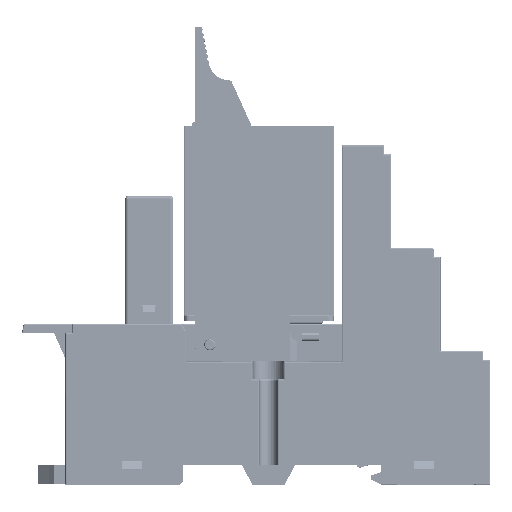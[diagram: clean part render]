
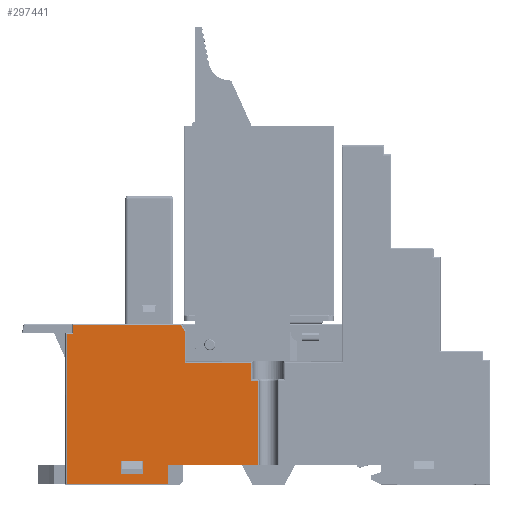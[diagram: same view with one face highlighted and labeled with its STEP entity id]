
A CAD part, top view. The second image highlights one B-rep face of the part: STEP entity #297441.
In plain terms, the highlighted planar face has unit normal (0, 0, 1).
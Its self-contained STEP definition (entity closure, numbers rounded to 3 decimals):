
#503 = ORIENTED_EDGE ( 'NONE', *, *, #218009, .T. ) ;
#2770 = CARTESIAN_POINT ( 'NONE',  ( -46.098, -32.082, 13.45 ) ) ;
#11825 = EDGE_CURVE ( 'NONE', #16322, #195343, #289352, .T. ) ;
#15429 = VERTEX_POINT ( 'NONE', #306461 ) ;
#15926 = ORIENTED_EDGE ( 'NONE', *, *, #267294, .T. ) ;
#16322 = VERTEX_POINT ( 'NONE', #43473 ) ;
#19897 = FACE_OUTER_BOUND ( 'NONE', #294657, .T. ) ;
#19965 = LINE ( 'NONE', #184635, #239825 ) ;
#22004 = LINE ( 'NONE', #47100, #263258 ) ;
#22346 = LINE ( 'NONE', #280833, #95414 ) ;
#23916 = LINE ( 'NONE', #45910, #175315 ) ;
#28873 = DIRECTION ( 'NONE',  ( 0., -1., 0. ) ) ;
#31441 = VECTOR ( 'NONE', #49808, 1000. ) ;
#33224 = DIRECTION ( 'NONE',  ( 0., 1., 0. ) ) ;
#34187 = ORIENTED_EDGE ( 'NONE', *, *, #227342, .T. ) ;
#38883 = CARTESIAN_POINT ( 'NONE',  ( -46.098, -5.232, 13.45 ) ) ;
#40073 = CARTESIAN_POINT ( 'NONE',  ( -34.648, -12.032, 13.45 ) ) ;
#41150 = VERTEX_POINT ( 'NONE', #268453 ) ;
#41887 = EDGE_LOOP ( 'NONE', ( #43079, #224647, #306940, #178816 ) ) ;
#42601 = CARTESIAN_POINT ( 'NONE',  ( -37.698, -30.382, 13.45 ) ) ;
#43079 = ORIENTED_EDGE ( 'NONE', *, *, #102662, .T. ) ;
#43473 = CARTESIAN_POINT ( 'NONE',  ( -21.498, -30.382, 13.45 ) ) ;
#45390 = CARTESIAN_POINT ( 'NONE',  ( -54.648, -5.232, 13.45 ) ) ;
#45871 = CARTESIAN_POINT ( 'NONE',  ( -54.648, -30.382, 13.45 ) ) ;
#45910 = CARTESIAN_POINT ( 'NONE',  ( -54.648, -5.232, 13.45 ) ) ;
#46981 = VECTOR ( 'NONE', #119981, 1000. ) ;
#47100 = CARTESIAN_POINT ( 'NONE',  ( -54.648, -15.232, 13.45 ) ) ;
#49808 = DIRECTION ( 'NONE',  ( 0., 1., 0. ) ) ;
#50750 = EDGE_CURVE ( 'NONE', #246055, #247535, #153992, .T. ) ;
#55075 = VECTOR ( 'NONE', #28873, 1000. ) ;
#56101 = VECTOR ( 'NONE', #57316, 1000. ) ;
#57316 = DIRECTION ( 'NONE',  ( -1., 0., 0. ) ) ;
#57729 = EDGE_CURVE ( 'NONE', #132200, #114649, #98609, .T. ) ;
#60148 = VERTEX_POINT ( 'NONE', #107700 ) ;
#61614 = ORIENTED_EDGE ( 'NONE', *, *, #57729, .T. ) ;
#65668 = VERTEX_POINT ( 'NONE', #174192 ) ;
#66437 = DIRECTION ( 'NONE',  ( 1., 0., 0. ) ) ;
#76493 = CARTESIAN_POINT ( 'NONE',  ( -54.648, -32.082, 13.45 ) ) ;
#89343 = EDGE_CURVE ( 'NONE', #195343, #246055, #22004, .T. ) ;
#95414 = VECTOR ( 'NONE', #66437, 1000. ) ;
#98609 = LINE ( 'NONE', #289497, #213586 ) ;
#102662 = EDGE_CURVE ( 'NONE', #144854, #60148, #233143, .T. ) ;
#103215 = DIRECTION ( 'NONE',  ( 0., 1., 0. ) ) ;
#105941 = LINE ( 'NONE', #201354, #56101 ) ;
#107700 = CARTESIAN_POINT ( 'NONE',  ( -46.098, -29.682, 13.45 ) ) ;
#110737 = CARTESIAN_POINT ( 'NONE',  ( -54.648, -6.832, 13.45 ) ) ;
#114649 = VERTEX_POINT ( 'NONE', #292484 ) ;
#118599 = DIRECTION ( 'NONE',  ( 1., 0., 0. ) ) ;
#118676 = CARTESIAN_POINT ( 'NONE',  ( -37.698, -33.882, 13.45 ) ) ;
#119981 = DIRECTION ( 'NONE',  ( -1., 0., 0. ) ) ;
#121849 = CARTESIAN_POINT ( 'NONE',  ( -54.648, -5.232, 13.45 ) ) ;
#132200 = VERTEX_POINT ( 'NONE', #40073 ) ;
#134553 = CARTESIAN_POINT ( 'NONE',  ( -22.648, -15.232, 13.45 ) ) ;
#141138 = EDGE_CURVE ( 'NONE', #65668, #41150, #223059, .T. ) ;
#141400 = EDGE_CURVE ( 'NONE', #60148, #65668, #22346, .T. ) ;
#143579 = LINE ( 'NONE', #285949, #163215 ) ;
#144854 = VERTEX_POINT ( 'NONE', #2770 ) ;
#145456 = ORIENTED_EDGE ( 'NONE', *, *, #192551, .T. ) ;
#150440 = ORIENTED_EDGE ( 'NONE', *, *, #298744, .T. ) ;
#150623 = VECTOR ( 'NONE', #163551, 1000. ) ;
#152396 = VECTOR ( 'NONE', #256598, 1000. ) ;
#153992 = LINE ( 'NONE', #269817, #191178 ) ;
#157549 = ORIENTED_EDGE ( 'NONE', *, *, #50750, .T. ) ;
#160782 = LINE ( 'NONE', #210654, #46981 ) ;
#163215 = VECTOR ( 'NONE', #118599, 1000. ) ;
#163551 = DIRECTION ( 'NONE',  ( 1., 0., 0. ) ) ;
#166261 = DIRECTION ( 'NONE',  ( -1., 0., 0. ) ) ;
#168774 = VERTEX_POINT ( 'NONE', #214595 ) ;
#168921 = CARTESIAN_POINT ( 'NONE',  ( -21.498, -5.232, 13.45 ) ) ;
#170225 = VERTEX_POINT ( 'NONE', #263045 ) ;
#174192 = CARTESIAN_POINT ( 'NONE',  ( -42.098, -29.682, 13.45 ) ) ;
#174721 = ORIENTED_EDGE ( 'NONE', *, *, #213178, .T. ) ;
#175081 = DIRECTION ( 'NONE',  ( -1., 0., 0. ) ) ;
#175315 = VECTOR ( 'NONE', #216555, 1000. ) ;
#178816 = ORIENTED_EDGE ( 'NONE', *, *, #254259, .T. ) ;
#181987 = ORIENTED_EDGE ( 'NONE', *, *, #89343, .T. ) ;
#183018 = ORIENTED_EDGE ( 'NONE', *, *, #249556, .T. ) ;
#184023 = LINE ( 'NONE', #187103, #198423 ) ;
#184635 = CARTESIAN_POINT ( 'NONE',  ( -55.848, -5.232, 13.45 ) ) ;
#187103 = CARTESIAN_POINT ( 'NONE',  ( -34.648, -6.396, 13.45 ) ) ;
#191178 = VECTOR ( 'NONE', #33224, 1000. ) ;
#192551 = EDGE_CURVE ( 'NONE', #170225, #241059, #23916, .T. ) ;
#192635 = LINE ( 'NONE', #45390, #292533 ) ;
#195343 = VERTEX_POINT ( 'NONE', #306082 ) ;
#198423 = VECTOR ( 'NONE', #279476, 1000. ) ;
#201354 = CARTESIAN_POINT ( 'NONE',  ( -54.648, -12.032, 13.45 ) ) ;
#209542 = LINE ( 'NONE', #281598, #152396 ) ;
#210325 = LINE ( 'NONE', #45871, #150623 ) ;
#210437 = ORIENTED_EDGE ( 'NONE', *, *, #11825, .T. ) ;
#210654 = CARTESIAN_POINT ( 'NONE',  ( -54.648, -6.832, 13.45 ) ) ;
#212588 = DIRECTION ( 'NONE',  ( 1., 0., 0. ) ) ;
#213178 = EDGE_CURVE ( 'NONE', #114649, #170225, #184023, .T. ) ;
#213586 = VECTOR ( 'NONE', #103215, 1000. ) ;
#214121 = FACE_BOUND ( 'NONE', #41887, .T. ) ;
#214595 = CARTESIAN_POINT ( 'NONE',  ( -55.848, -6.832, 13.45 ) ) ;
#216555 = DIRECTION ( 'NONE',  ( -1., 0., 0. ) ) ;
#218009 = EDGE_CURVE ( 'NONE', #300060, #168774, #160782, .T. ) ;
#218241 = EDGE_CURVE ( 'NONE', #268367, #309879, #209542, .T. ) ;
#223059 = LINE ( 'NONE', #270044, #55075 ) ;
#224647 = ORIENTED_EDGE ( 'NONE', *, *, #141400, .T. ) ;
#227342 = EDGE_CURVE ( 'NONE', #241059, #300060, #192635, .T. ) ;
#229336 = LINE ( 'NONE', #76493, #254856 ) ;
#233143 = LINE ( 'NONE', #38883, #263160 ) ;
#239240 = DIRECTION ( 'NONE',  ( 0., 0., 1. ) ) ;
#239825 = VECTOR ( 'NONE', #308166, 1000. ) ;
#241059 = VERTEX_POINT ( 'NONE', #296870 ) ;
#246055 = VERTEX_POINT ( 'NONE', #134553 ) ;
#247535 = VERTEX_POINT ( 'NONE', #285225 ) ;
#249556 = EDGE_CURVE ( 'NONE', #168774, #15429, #19965, .T. ) ;
#250237 = ORIENTED_EDGE ( 'NONE', *, *, #218241, .T. ) ;
#253582 = DIRECTION ( 'NONE',  ( 0., 1., 0. ) ) ;
#254259 = EDGE_CURVE ( 'NONE', #41150, #144854, #229336, .T. ) ;
#254856 = VECTOR ( 'NONE', #175081, 1000. ) ;
#256598 = DIRECTION ( 'NONE',  ( 0., 1., 0. ) ) ;
#262669 = PLANE ( 'NONE',  #274368 ) ;
#263045 = CARTESIAN_POINT ( 'NONE',  ( -35.25, -5.232, 13.45 ) ) ;
#263160 = VECTOR ( 'NONE', #253582, 1000. ) ;
#263258 = VECTOR ( 'NONE', #166261, 1000. ) ;
#267294 = EDGE_CURVE ( 'NONE', #15429, #268367, #143579, .T. ) ;
#268367 = VERTEX_POINT ( 'NONE', #118676 ) ;
#268453 = CARTESIAN_POINT ( 'NONE',  ( -42.098, -32.082, 13.45 ) ) ;
#269817 = CARTESIAN_POINT ( 'NONE',  ( -22.648, -5.232, 13.45 ) ) ;
#270044 = CARTESIAN_POINT ( 'NONE',  ( -42.098, -5.232, 13.45 ) ) ;
#271708 = EDGE_CURVE ( 'NONE', #247535, #132200, #105941, .T. ) ;
#274368 = AXIS2_PLACEMENT_3D ( 'NONE', #121849, #239240, #212588 ) ;
#279476 = DIRECTION ( 'NONE',  ( -0.459, 0.888, 0. ) ) ;
#280833 = CARTESIAN_POINT ( 'NONE',  ( -54.648, -29.682, 13.45 ) ) ;
#281001 = ORIENTED_EDGE ( 'NONE', *, *, #271708, .T. ) ;
#281598 = CARTESIAN_POINT ( 'NONE',  ( -37.698, -5.232, 13.45 ) ) ;
#285225 = CARTESIAN_POINT ( 'NONE',  ( -22.648, -12.032, 13.45 ) ) ;
#285949 = CARTESIAN_POINT ( 'NONE',  ( -54.648, -33.882, 13.45 ) ) ;
#289352 = LINE ( 'NONE', #168921, #31441 ) ;
#289497 = CARTESIAN_POINT ( 'NONE',  ( -34.648, -5.232, 13.45 ) ) ;
#292484 = CARTESIAN_POINT ( 'NONE',  ( -34.648, -6.396, 13.45 ) ) ;
#292533 = VECTOR ( 'NONE', #308470, 1000. ) ;
#294657 = EDGE_LOOP ( 'NONE', ( #15926, #250237, #150440, #210437, #181987, #157549, #281001, #61614, #174721, #145456, #34187, #503, #183018 ) ) ;
#296870 = CARTESIAN_POINT ( 'NONE',  ( -54.648, -5.232, 13.45 ) ) ;
#297441 = ADVANCED_FACE ( 'NONE', ( #214121, #19897 ), #262669, .T. ) ;
#298744 = EDGE_CURVE ( 'NONE', #309879, #16322, #210325, .T. ) ;
#300060 = VERTEX_POINT ( 'NONE', #110737 ) ;
#306082 = CARTESIAN_POINT ( 'NONE',  ( -21.498, -15.232, 13.45 ) ) ;
#306461 = CARTESIAN_POINT ( 'NONE',  ( -55.848, -33.882, 13.45 ) ) ;
#306940 = ORIENTED_EDGE ( 'NONE', *, *, #141138, .T. ) ;
#308166 = DIRECTION ( 'NONE',  ( 0., -1., 0. ) ) ;
#308470 = DIRECTION ( 'NONE',  ( 0., -1., 0. ) ) ;
#309879 = VERTEX_POINT ( 'NONE', #42601 ) ;
